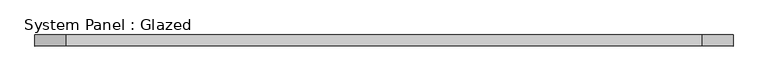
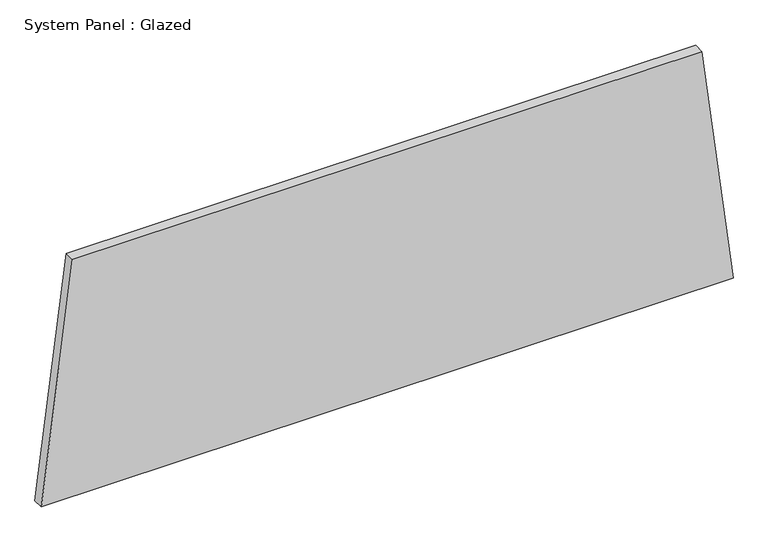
"""IFC4 building model written with IfcOpenShell, lengths in millimetres: plate geometry, System Panel : Glazed."""

from ifc_helpers import new_model, si_unit, frame, origin, place, context, project, spatial, polyline, outline, extrude, source, transform, mapped, element, save


def system_panel_glazed_1f33159c(model_context):
    return source(origin(), model_context, "Body", "SweptSolid", [
        extrude(outline(polyline([(0.0, -800.0613879), (0.0, 800.0613879), (579.5391204, 727.9820512), (579.5391204, -727.9820512), (0.0, -800.0613879)])), frame((0.0, -44.45, 0.0), z_axis=(0.0, 1.0, 0.0), x_axis=(0.0, 0.0, 1.0)), (0.0, 0.0, 1.0), 25.4),
    ])


if __name__ == "__main__":
    model = new_model("IFC4")
    model_context = context("Model", 3, world=origin())
    ifc_project = project(units=[si_unit("LENGTHUNIT", "METRE", prefix="MILLI")], contexts=[model_context])
    site = spatial("IfcSite", under=ifc_project)
    building = spatial("IfcBuilding", under=site)
    placement = place(None, origin())
    system_panel_glazed_shape = system_panel_glazed_1f33159c(model_context)
    element("IfcPlate", 1, ObjectType="System Panel : Glazed", at=placement, inside=building, context=model_context, shape_type="MappedRepresentation", body=[
        mapped(system_panel_glazed_shape, transform((0.0, 0.0, 0.0), x_axis=(1.0, 0.0, 0.0), y_axis=(0.0, 1.0, 0.0), z_axis=(0.0, 0.0, 1.0))),
    ])
    save(model, "model.ifc")
